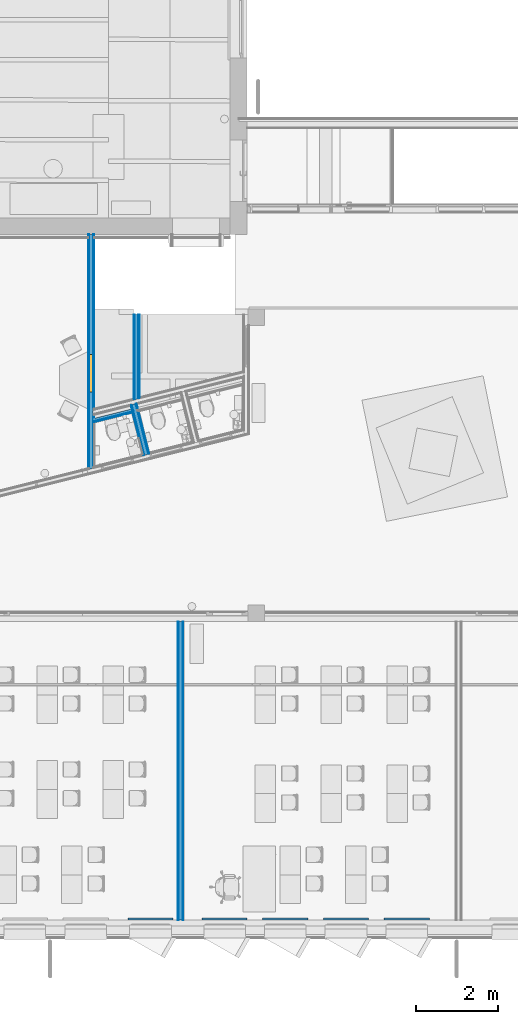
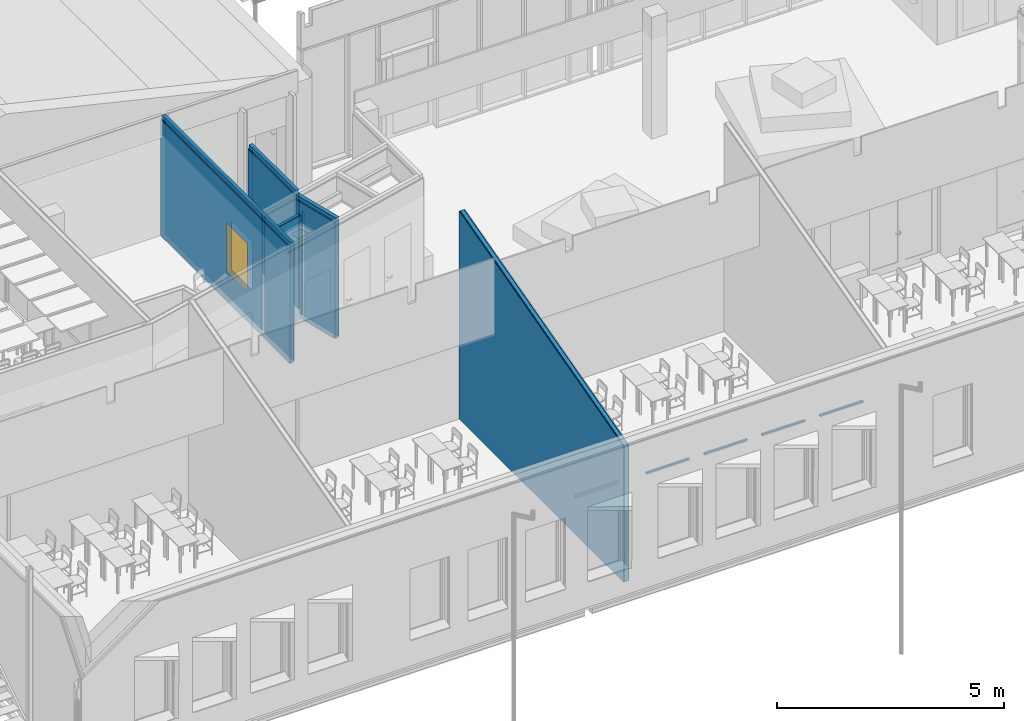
# One storey, part 55 of 153: 22 building element parts, 5 discrete accessories, 1 door, 1 opening, 5 elements without a shape of their own.
"""IFC2X3 building model written with IfcOpenShell, lengths in millimetres."""

from ifc_helpers import new_model, entity, si_unit, converted_unit, derived_unit, money_unit, direction, frame, origin_with_axes, place, context, subcontext, project, spatial, faceted_brep, material, type_object, element, fill, aggregate, save


model = new_model("IFC2X3")

# Units and contexts
model_context = context("Model", 3, precision=0.01, world=origin_with_axes(), true_north=direction((0.0, 1.0)))
body_context = subcontext(model_context, "Body", "Model", "MODEL_VIEW")
ifc_project = project(units=[si_unit("LENGTHUNIT", "METRE", prefix="MILLI"), si_unit("AREAUNIT", "SQUARE_METRE"), si_unit("VOLUMEUNIT", "CUBIC_METRE"), converted_unit("PLANEANGLEUNIT", "DEGREE", entity("IfcPlaneAngleMeasure", 0.0174532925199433), si_unit("PLANEANGLEUNIT", "RADIAN"), dimensions=[0, 0, 0, 0, 0, 0, 0]), money_unit("EUR"), converted_unit("TIMEUNIT", "Year", entity("IfcTimeMeasure", 31557600.0), si_unit("TIMEUNIT", "SECOND"), dimensions=[0, 0, 1, 0, 0, 0, 0]), si_unit("MASSUNIT", "GRAM", prefix="KILO"), si_unit("THERMODYNAMICTEMPERATUREUNIT", "DEGREE_CELSIUS"), si_unit("LUMINOUSINTENSITYUNIT", "LUMEN"), si_unit("ENERGYUNIT", "JOULE", prefix="MEGA"), derived_unit("THERMALCONDUCTANCEUNIT", [(si_unit("POWERUNIT", "WATT"), 1), (si_unit("LENGTHUNIT", "METRE"), -1), (si_unit("THERMODYNAMICTEMPERATUREUNIT", "KELVIN"), -1)]), derived_unit("SPECIFICHEATCAPACITYUNIT", [(si_unit("ENERGYUNIT", "JOULE"), 1), (si_unit("MASSUNIT", "GRAM", prefix="KILO"), -1), (si_unit("THERMODYNAMICTEMPERATUREUNIT", "KELVIN"), -1)]), derived_unit("MASSDENSITYUNIT", [(si_unit("MASSUNIT", "GRAM", prefix="KILO"), 1), (si_unit("VOLUMEUNIT", "CUBIC_METRE"), -1)])], contexts=[model_context])

# Site, building, storey
site_placement = place(None, frame((0.0, 0.0, 8650.0), z_axis=(0.0, 0.0, 1.0), x_axis=(1.0, 0.0, 0.0)))
site = spatial("IfcSite", under=ifc_project, at=site_placement, Name="43301:001:0844", CompositionType="ELEMENT")
building_placement = place(site_placement, origin_with_axes())
building = spatial("IfcBuilding", under=site, at=building_placement, Name="Kuressaare Ametikooli tuulikute mehaanikute õppekorpus", CompositionType="ELEMENT")
storey_placement = place(building_placement, frame((0.0, 0.0, 4100.0), z_axis=(0.0, 0.0, 1.0), x_axis=(1.0, 0.0, 0.0)))
storey = spatial("IfcBuildingStorey", under=building, at=storey_placement, Name="2.korrus", CompositionType="ELEMENT", Elevation=4100.0)

# Door
door_style = type_object("IfcDoorStyle", Name="Door 27", ConstructionType="NOTDEFINED", OperationType="SINGLE_SWING_RIGHT", ParameterTakesPrecedence=False, Sizeable=False)
wall_4_placement = place(storey_placement, frame((99785.61828844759, 25783.06892395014, 0.0), z_axis=(0.0, 0.0, 1.0), x_axis=(0.0, -1.0, 0.0)))
opening_placement = place(wall_4_placement, frame((3373.080116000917, 0.0, 799.9999999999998), z_axis=(0.0, 0.0, 1.0), x_axis=(1.0, 0.0, 0.0)))
door_placement = place(opening_placement, frame((454.9999999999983, 0.0, 0.0), z_axis=(0.0, 0.0, 1.0), x_axis=(-1.0, 0.0, 0.0)))
door = element("IfcDoor", 1, at=door_placement, inside=storey, type_object=door_style, Name="PU9x13v,EI30", OverallHeight=1310.0, OverallWidth=910.0, context=body_context, shape_type="Brep", body=[
    faceted_brep([(861.9999999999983, -64.99999999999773, 0.0), (861.9999999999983, -64.99999999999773, 11.99999999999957), (849.9999999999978, -64.99999999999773, 11.99999999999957), (849.9999999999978, -64.99999999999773, 0.0), (47.99999999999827, -64.99999999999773, 0.0), (47.99999999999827, -64.99999999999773, 11.99999999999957), (59.99999999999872, -64.99999999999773, 11.99999999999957), (59.99999999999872, -90.00000000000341, 11.99999999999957), (849.9999999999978, -90.00000000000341, 11.99999999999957), (849.9999999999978, -90.00000000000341, 0.0), (59.99999999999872, -90.00000000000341, 0.0), (59.99999999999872, -64.99999999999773, 0.0)], [[[0, 1, 2, 3]], [[4, 5, 1, 0]], [[1, 5, 6, 7, 8, 2]], [[3, 2, 8, 9]], [[0, 3, 9, 10, 11, 4]], [[11, 6, 5, 4]], [[10, 7, 6, 11]], [[9, 8, 7, 10]]]),
    faceted_brep([(59.99999999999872, -64.99999999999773, 0.0), (59.99999999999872, -64.99999999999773, 1250.0), (59.99999999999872, -90.00000000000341, 1250.0), (59.99999999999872, -90.00000000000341, 0.0), (47.99999999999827, -64.99999999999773, 1250.0), (47.99999999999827, -64.99999999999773, 0.0), (47.99999999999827, 0.0, 1250.0), (0.0, 0.0, 1250.0), (0.0, -90.00000000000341, 1250.0), (0.0, -90.00000000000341, 0.0), (0.0, 0.0, 0.0), (47.99999999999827, 0.0, 0.0)], [[[0, 1, 2, 3]], [[4, 1, 0, 5]], [[4, 6, 7, 8, 2, 1]], [[3, 2, 8, 9]], [[5, 0, 3, 9, 10, 11]], [[6, 4, 5, 11]], [[6, 11, 10, 7]], [[10, 9, 8, 7]]]),
    faceted_brep([(861.9999999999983, -64.99999999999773, 1250.0), (849.9999999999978, -64.99999999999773, 1250.0), (849.9999999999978, -90.00000000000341, 1250.0), (909.9999999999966, -90.00000000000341, 1250.0), (909.9999999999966, 0.0, 1250.0), (861.9999999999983, 0.0, 1250.0), (861.9999999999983, -64.99999999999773, 0.0), (849.9999999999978, -64.99999999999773, 0.0), (849.9999999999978, -90.00000000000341, 0.0), (909.9999999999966, -90.00000000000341, 0.0), (909.9999999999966, 0.0, 0.0), (861.9999999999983, 0.0, 0.0)], [[[0, 1, 2, 3, 4, 5]], [[1, 0, 6, 7]], [[1, 7, 8, 2]], [[3, 2, 8, 9]], [[4, 3, 9, 10]], [[11, 5, 4, 10]], [[0, 5, 11, 6]], [[6, 11, 10, 9, 8, 7]]]),
    faceted_brep([(47.99999999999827, 0.0, 1262.0), (47.99999999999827, 0.0, 1250.0), (0.0, 0.0, 1250.0), (0.0, 0.0, 1310.0), (909.9999999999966, 0.0, 1310.0), (909.9999999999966, 0.0, 1250.0), (861.9999999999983, 0.0, 1250.0), (861.9999999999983, 0.0, 1262.0), (47.99999999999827, -64.99999999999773, 1262.0), (47.99999999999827, -64.99999999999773, 1250.0), (59.99999999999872, -64.99999999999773, 1250.0), (59.99999999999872, -90.00000000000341, 1250.0), (0.0, -90.00000000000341, 1250.0), (0.0, -90.00000000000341, 1310.0), (909.9999999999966, -90.00000000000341, 1310.0), (909.9999999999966, -90.00000000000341, 1250.0), (861.9999999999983, -64.99999999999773, 1250.0), (849.9999999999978, -90.00000000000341, 1250.0), (849.9999999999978, -64.99999999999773, 1250.0), (861.9999999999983, -64.99999999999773, 1262.0)], [[[0, 1, 2, 3, 4, 5, 6, 7]], [[1, 0, 8, 9]], [[9, 10, 11, 12, 2, 1]], [[2, 12, 13, 3]], [[3, 13, 14, 4]], [[4, 14, 15, 5]], [[16, 6, 5, 15, 17, 18]], [[7, 6, 16, 19]], [[0, 7, 19, 8]], [[16, 18, 10, 9, 8, 19]], [[10, 18, 17, 11]], [[17, 15, 14, 13, 12, 11]]]),
    faceted_brep([(861.9999999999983, 0.0, 0.0), (861.9999999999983, -64.99999999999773, 0.0), (47.99999999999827, -64.99999999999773, 0.0), (47.99999999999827, 0.0, 0.0), (861.9999999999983, 0.0, 1262.0), (861.9999999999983, -64.99999999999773, 1262.0), (47.99999999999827, -64.99999999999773, 1262.0), (47.99999999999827, 0.0, 1262.0)], [[[0, 1, 2, 3]], [[4, 5, 1, 0]], [[1, 5, 6, 2]], [[3, 2, 6, 7]], [[0, 3, 7, 4]], [[7, 6, 5, 4]]]),
])

# Discrete accessories
ifc_material_1 = material(Name="GENEERILINE - KONSTRUKTRIOON")
discrete_accessory_type = type_object("IfcDiscreteAccessoryType", Name="GENEERILINE - KONSTRUKTRIOON 50")
for number, where, z_axis, x_axis, name in (
    (2, (100748.0685835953, 9123.838490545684, 2700.0), (0.0, 0.0, 1.0), (1.0, 0.0, 0.0), "RK"),
    (3, (102547.9522847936, 9123.838490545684, 2700.0), (0.0, 0.0, 1.0), (1.0, 0.0, 0.0), "RK"),
    (4, (104022.9522847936, 9123.838490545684, 2700.0), (0.0, 0.0, 1.0), (1.0, 0.0, 0.0), "RK"),
    (5, (105497.9522847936, 9123.838490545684, 2700.0), (0.0, 0.0, 1.0), (1.0, 0.0, 0.0), "RK"),
    (6, (106972.9522847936, 9123.838490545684, 2700.0), (0.0, 0.0, 1.0), (1.0, 0.0, 0.0), "RK"),
):
    element("IfcDiscreteAccessory", number, at=place(storey_placement, frame(where, z_axis=z_axis, x_axis=x_axis)), inside=storey, type_object=discrete_accessory_type, material=ifc_material_1, Name=name, context=body_context, shape_type="Brep", body=[
        faceted_brep([(0.0, 0.0, 49.99999999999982), (0.0, 0.0, 0.0), (1099.999999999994, 0.0, 0.0), (1099.999999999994, 0.0, 49.99999999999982), (0.0, 50.00000000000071, 49.99999999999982), (0.0, 50.00000000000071, 0.0), (1099.999999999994, 50.00000000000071, 0.0), (1099.999999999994, 50.00000000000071, 49.99999999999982)], [[[0, 1, 2, 3]], [[4, 5, 1, 0]], [[2, 1, 5, 6]], [[3, 2, 6, 7]], [[4, 0, 3, 7]], [[7, 6, 5, 4]]]),
    ])

# Wall, building element parts
wall_type_1 = type_object("IfcWallType", Name="SS-2.4 92", PredefinedType="NOTDEFINED")
wall_1_placement = place(storey_placement, frame((99925.61828844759, 21218.086665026, 0.0), z_axis=(0.0, 0.0, 1.0), x_axis=(0.9699954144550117, 0.2431232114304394, 0.0)))
wall_1 = element("IfcWall", 7, at=wall_1_placement, inside=storey, type_object=wall_type_1, Name="Sisesein")
ifc_material_2 = material(Name="Air Space - Frame")
building_element_part_1_placement = place(wall_1_placement, origin_with_axes())
building_element_part_1 = element("IfcBuildingElementPart", 8, at=building_element_part_1_placement, material=ifc_material_2, Name="Air Space - Frame", context=body_context, shape_type="Brep", body=[
    faceted_brep([(996.9999750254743, 26.00004441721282, 0.0), (996.9999750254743, 26.00004441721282, 2800.0), (0.0, 25.99999999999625, 2800.0), (0.0, 25.99999999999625, 0.0), (996.9999707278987, 92.00004441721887, 0.0), (996.9999707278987, 92.00004441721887, 2800.0), (0.0, 91.99999999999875, 2800.0), (0.0, 91.99999999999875, 0.0)], [[[0, 1, 2, 3]], [[1, 0, 4, 5]], [[1, 5, 6, 2]], [[2, 6, 7, 3]], [[4, 0, 3, 7]], [[4, 7, 6, 5]]]),
])
ifc_material_3 = material(Name="Plywood")
building_element_part_2_placement = place(wall_1_placement, origin_with_axes())
building_element_part_2 = element("IfcBuildingElementPart", 9, at=building_element_part_2_placement, material=ifc_material_3, Name="Plywood", context=body_context, shape_type="Brep", body=[
    faceted_brep([(996.9999758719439, 13.00004441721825, 0.0), (996.9999758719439, 13.00004441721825, 2800.0), (0.0, 12.99999999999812, 2800.0), (0.0, 12.99999999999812, 0.0), (996.9999750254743, 26.00004441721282, 0.0), (996.9999750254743, 26.00004441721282, 2800.0), (0.0, 25.99999999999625, 2800.0), (0.0, 25.99999999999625, 0.0)], [[[0, 1, 2, 3]], [[1, 0, 4, 5]], [[1, 5, 6, 2]], [[2, 6, 7, 3]], [[4, 0, 3, 7]], [[4, 7, 6, 5]]]),
])
ifc_material_4 = material(Name="Plaster - Gypsum")
building_element_part_3_placement = place(wall_1_placement, origin_with_axes())
building_element_part_3 = element("IfcBuildingElementPart", 10, at=building_element_part_3_placement, material=ifc_material_4, Name="Plaster - Gypsum", context=body_context, shape_type="Brep", body=[
    faceted_brep([(970.9999767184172, 5.133200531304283e-05, 0.0), (970.9999767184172, 5.133200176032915e-05, 2800.0), (0.0, 0.0, 2800.0), (0.0, 0.0, 0.0), (970.9999758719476, 13.00005133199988, 0.0), (970.9999758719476, 13.00005133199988, 2800.0), (0.0, 12.99999999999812, 2800.0), (0.0, 12.99999999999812, 0.0)], [[[0, 1, 2, 3]], [[1, 0, 4, 5]], [[1, 5, 6, 2]], [[2, 6, 7, 3]], [[4, 0, 3, 7]], [[4, 7, 6, 5]]]),
])
aggregate(wall_1, [building_element_part_1, building_element_part_2, building_element_part_3])

wall_type_2 = type_object("IfcWallType", Name="SS-2.2 147", PredefinedType="NOTDEFINED")
wall_2_placement = place(storey_placement, frame((100826.1528089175, 21619.05870574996, 0.0), z_axis=(0.0, 0.0, 1.0), x_axis=(0.2431232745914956, -0.9699953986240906, 0.0)))
wall_2 = element("IfcWall", 11, at=wall_2_placement, inside=storey, type_object=wall_type_2, Name="Sisesein")
ifc_material_5 = material(Name="Kipsplaat")
building_element_part_4_placement = place(wall_2_placement, origin_with_axes())
building_element_part_4 = element("IfcBuildingElementPart", 12, at=building_element_part_4_placement, material=ifc_material_5, Name="Kipsplaat", context=body_context, shape_type="Brep", body=[
    faceted_brep([(0.0002997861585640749, 147.0000000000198, 3129.999999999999), (1223.000132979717, 147.0000000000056, 3129.999999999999), (1223.000132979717, 147.0000000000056, 0.0), (157.0001466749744, 147.0000000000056, 0.0), (157.000146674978, 147.0000000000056, 2800.0), (78.0001466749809, 147.0000000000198, 2800.0), (78.0001466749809, 147.000000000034, 0.0), (0.0002997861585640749, 147.0000000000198, 0.0), (1223.000132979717, 134.0000000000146, 3129.999999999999), (0.0003015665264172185, 134.0000000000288, 3129.999999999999), (1223.000132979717, 134.0000000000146, 0.0), (157.0001510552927, 134.0000000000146, 0.0), (157.0001510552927, 134.0000000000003, 2800.0), (78.00015105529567, 134.0000000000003, 2800.0), (78.00015105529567, 134.0000000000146, 0.0), (0.0003015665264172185, 134.0000000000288, 0.0)], [[[0, 1, 2, 3, 4, 5, 6, 7]], [[8, 1, 0, 9]], [[1, 8, 10, 2]], [[10, 11, 3, 2]], [[12, 4, 3, 11]], [[4, 12, 13, 5]], [[5, 13, 14, 6]], [[7, 6, 14, 15]], [[9, 0, 7, 15]], [[8, 9, 15, 14, 13, 12, 11, 10]]]),
])
building_element_part_5_placement = place(wall_2_placement, origin_with_axes())
building_element_part_5 = element("IfcBuildingElementPart", 13, at=building_element_part_5_placement, material=ifc_material_5, Name="Kipsplaat", context=body_context, shape_type="Brep", body=[
    faceted_brep([(-12.99969843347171, 134.0000000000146, 3145.0), (1236.000132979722, 134.0000000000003, 3145.0), (1236.000132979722, 134.0000000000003, 0.0), (157.0001510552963, 134.0000000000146, 0.0), (157.0001510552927, 134.0000000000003, 2800.0), (78.00015105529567, 134.0000000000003, 2800.0), (78.00015105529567, 134.0000000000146, 0.0), (-12.99969843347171, 134.0000000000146, 0.0), (1236.000132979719, 121.0000000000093, 3145.0), (-12.99969665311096, 121.0000000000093, 3145.0), (1236.000132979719, 121.0000000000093, 0.0), (157.0001554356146, 121.0000000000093, 0.0), (157.0001554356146, 121.0000000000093, 2800.0), (78.000155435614, 121.0000000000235, 2800.0), (78.000155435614, 121.0000000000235, 0.0), (-12.99969665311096, 121.0000000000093, 0.0)], [[[0, 1, 2, 3, 4, 5, 6, 7]], [[8, 1, 0, 9]], [[1, 8, 10, 2]], [[10, 11, 3, 2]], [[12, 4, 3, 11]], [[4, 12, 13, 5]], [[5, 13, 14, 6]], [[7, 6, 14, 15]], [[9, 0, 7, 15]], [[8, 9, 15, 14, 13, 12, 11, 10]]]),
])
ifc_material_6 = material(Name="Soojustus - Mineraalvill pehme")
building_element_part_6_placement = place(wall_2_placement, origin_with_axes())
building_element_part_6 = element("IfcBuildingElementPart", 14, at=building_element_part_6_placement, material=ifc_material_6, Name="Soojustus - Mineraalvill pehme", context=body_context, shape_type="Brep", body=[
    faceted_brep([(-25.99969665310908, 121.0000000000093, 3240.0), (1249.000132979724, 121.0000000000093, 3240.0), (1249.000132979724, 121.0000000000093, 0.0), (-25.99969665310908, 121.0000000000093, 0.0), (1249.000132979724, 26.00000000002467, 3240.0), (-25.99968364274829, 25.99999999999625, 3240.0), (1249.000132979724, 26.00000000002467, 0.0), (-25.99968364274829, 25.99999999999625, 0.0)], [[[0, 1, 2, 3]], [[4, 1, 0, 5]], [[1, 4, 6, 2]], [[3, 2, 6, 7]], [[5, 0, 3, 7]], [[4, 5, 7, 6]]]),
])
building_element_part_7_placement = place(wall_2_placement, origin_with_axes())
building_element_part_7 = element("IfcBuildingElementPart", 15, at=building_element_part_7_placement, material=ifc_material_5, Name="Kipsplaat", context=body_context, shape_type="Brep", body=[
    faceted_brep([(-12.99968364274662, 26.00000000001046, 3145.0), (1236.000132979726, 26.00000000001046, 3145.0), (1236.000132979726, 26.00000000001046, 0.0), (157.0001534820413, 26.00000000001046, 0.0), (157.0001534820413, 26.00000000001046, 2800.0), (78.00015348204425, 26.00000000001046, 2800.0), (78.00015348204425, 26.00000000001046, 0.0), (-12.99968364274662, 26.00000000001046, 0.0), (1236.000132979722, 13.00000000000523, 3145.0), (-12.99968186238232, 13.00000000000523, 3145.0), (1236.000132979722, 13.00000000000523, 0.0), (157.0001532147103, 13.00000000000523, 0.0), (157.0001532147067, 13.00000000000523, 2800.0), (78.00015321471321, 13.00000000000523, 2800.0), (78.00015321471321, 13.00000000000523, 0.0), (-12.99968186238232, 13.00000000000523, 0.0)], [[[0, 1, 2, 3, 4, 5, 6, 7]], [[8, 1, 0, 9]], [[1, 8, 10, 2]], [[10, 11, 3, 2]], [[12, 4, 3, 11]], [[5, 4, 12, 13]], [[5, 13, 14, 6]], [[7, 6, 14, 15]], [[9, 0, 7, 15]], [[8, 9, 15, 14, 13, 12, 11, 10]]]),
])
building_element_part_8_placement = place(wall_2_placement, origin_with_axes())
building_element_part_8 = element("IfcBuildingElementPart", 16, at=building_element_part_8_placement, material=ifc_material_5, Name="Kipsplaat", context=body_context, shape_type="Brep", body=[
    faceted_brep([(0.0003181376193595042, 13.00000000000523, 3129.999999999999), (1223.000132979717, 13.00000000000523, 3129.999999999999), (1223.000132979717, 13.00000000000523, 0.0), (157.0001532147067, 13.00000000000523, 0.0), (157.0001532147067, 13.00000000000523, 2800.0), (78.00015321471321, 13.00000000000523, 2800.0), (78.00015321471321, 13.00000000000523, 0.0), (0.0003181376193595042, 13.00000000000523, 0.0), (1223.000132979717, 0.0, 3129.999999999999), (0.0003199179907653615, 0.0, 3129.999999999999), (1223.000132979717, 0.0, 0.0), (157.0001529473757, 0.0, 0.0), (157.0001529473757, 0.0, 2800.0), (78.00015294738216, 0.0, 2800.0), (78.00015294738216, 0.0, 0.0), (0.0003199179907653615, 0.0, 0.0)], [[[0, 1, 2, 3, 4, 5, 6, 7]], [[8, 1, 0, 9]], [[1, 8, 10, 2]], [[10, 11, 3, 2]], [[12, 4, 3, 11]], [[5, 4, 12, 13]], [[5, 13, 14, 6]], [[7, 6, 14, 15]], [[9, 0, 7, 15]], [[8, 9, 15, 14, 13, 12, 11, 10]]]),
])
aggregate(wall_2, [building_element_part_4, building_element_part_5, building_element_part_6, building_element_part_7, building_element_part_8])

wall_3_placement = place(storey_placement, frame((102108.0683708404, 9123.83842601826, 0.0), z_axis=(0.0, 0.0, 1.0), x_axis=(-1.33078091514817e-07, 0.9999999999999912, 0.0)))
wall_3 = element("IfcWall", 17, at=wall_3_placement, inside=storey, type_object=wall_type_2, Name="Sisesein")
building_element_part_9_placement = place(wall_3_placement, origin_with_axes())
building_element_part_9 = element("IfcBuildingElementPart", 18, at=building_element_part_9_placement, material=ifc_material_5, Name="Kipsplaat", context=body_context, shape_type="Brep", body=[
    faceted_brep([(7250.205461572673, 146.9999996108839, 5607.485657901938), (7250.205454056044, 133.9999999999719, 5607.485655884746), (7250.205423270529, 133.9999999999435, 3589.999999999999), (7250.2054231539, 146.9999999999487, 3589.999999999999), (0.001079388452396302, 134.000000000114, 3664.799248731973), (0.00108044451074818, 146.9999906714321, 3664.79924901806), (8.23598913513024e-05, 134.0000000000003, 0.0), (7250.210284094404, 134.0000000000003, 0.0), (7250.210284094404, 134.0000000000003, 3259.999999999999), (7250.210284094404, 147.0000000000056, 3259.999999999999), (7250.210284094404, 147.0000000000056, 0.0), (8.408990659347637e-05, 147.0000000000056, 0.0)], [[[0, 1, 2, 3]], [[4, 1, 0, 5]], [[1, 4, 6, 7, 8, 2]], [[2, 8, 9, 3]], [[5, 0, 3, 9, 10, 11]], [[4, 5, 11, 6]], [[7, 6, 11, 10]], [[8, 7, 10, 9]]]),
])
building_element_part_10_placement = place(wall_3_placement, origin_with_axes())
building_element_part_10 = element("IfcBuildingElementPart", 19, at=building_element_part_10_placement, material=ifc_material_5, Name="Kipsplaat", context=body_context, shape_type="Brep", body=[
    faceted_brep([(7250.205454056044, 133.9999999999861, 5607.485655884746), (7250.205446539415, 120.9999999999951, 5607.485653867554), (7250.205423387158, 120.9999999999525, 3589.999999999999), (7250.205423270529, 133.9999999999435, 3589.999999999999), (0.001078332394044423, 121.0000000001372, 3664.799248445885), (0.001079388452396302, 134.000000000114, 3664.799248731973), (8.062987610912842e-05, 120.9999999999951, 0.0), (7250.210284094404, 121.0000000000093, 0.0), (7250.210284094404, 121.0000000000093, 3259.999999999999), (7250.210284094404, 134.0000000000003, 3259.999999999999), (7250.210284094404, 134.0000000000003, 0.0), (8.23598913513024e-05, 134.0000000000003, 0.0)], [[[0, 1, 2, 3]], [[4, 1, 0, 5]], [[1, 4, 6, 7, 8, 2]], [[2, 8, 9, 3]], [[5, 0, 3, 9, 10, 11]], [[4, 5, 11, 6]], [[7, 6, 11, 10]], [[8, 7, 10, 9]]]),
])
building_element_part_11_placement = place(wall_3_placement, origin_with_axes())
building_element_part_11 = element("IfcBuildingElementPart", 20, at=building_element_part_11_placement, material=ifc_material_6, Name="Soojustus - Mineraalvill pehme", context=body_context, shape_type="Brep", body=[
    faceted_brep([(7250.205446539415, 121.0000000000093, 5607.485653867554), (7250.205391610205, 26.00000000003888, 5607.485639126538), (7250.20542423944, 25.99999999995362, 3589.999999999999), (7250.205423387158, 120.9999999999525, 3589.999999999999), (0.001070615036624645, 26.00000000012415, 3664.799246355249), (0.001078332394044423, 121.000000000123, 3664.799248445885), (6.79874574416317e-05, 25.99999999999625, 0.0), (7250.210284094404, 26.00000000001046, 0.0), (7250.210284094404, 26.00000000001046, 3259.999999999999), (7250.210284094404, 121.0000000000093, 3259.999999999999), (7250.210284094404, 121.0000000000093, 0.0), (8.062987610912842e-05, 120.9999999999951, 0.0)], [[[0, 1, 2, 3]], [[4, 1, 0, 5]], [[1, 4, 6, 7, 8, 2]], [[2, 8, 9, 3]], [[5, 0, 3, 9, 10, 11]], [[4, 5, 11, 6]], [[7, 6, 11, 10]], [[8, 7, 10, 9]]]),
])
building_element_part_12_placement = place(wall_3_placement, origin_with_axes())
building_element_part_12 = element("IfcBuildingElementPart", 21, at=building_element_part_12_placement, material=ifc_material_5, Name="Kipsplaat", context=body_context, shape_type="Brep", body=[
    faceted_brep([(7250.205391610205, 26.00000000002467, 5607.485639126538), (7250.205384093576, 13.00000000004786, 5607.485637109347), (7250.205424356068, 12.99999999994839, 3589.999999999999), (7250.20542423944, 25.99999999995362, 3589.999999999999), (0.00106955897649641, 13.00000000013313, 3664.799246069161), (0.001070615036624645, 26.00000000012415, 3664.799246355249), (6.625744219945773e-05, 13.00000000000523, 0.0), (7250.210284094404, 13.00000000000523, 0.0), (7250.210284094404, 13.00000000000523, 3259.999999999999), (7250.210284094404, 26.00000000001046, 3259.999999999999), (7250.210284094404, 26.00000000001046, 0.0), (6.79874574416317e-05, 25.99999999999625, 0.0)], [[[0, 1, 2, 3]], [[4, 1, 0, 5]], [[1, 4, 6, 7, 8, 2]], [[2, 8, 9, 3]], [[5, 0, 3, 9, 10, 11]], [[4, 5, 11, 6]], [[7, 6, 11, 10]], [[8, 7, 10, 9]]]),
])
aggregate(wall_3, [building_element_part_9, building_element_part_10, building_element_part_11, building_element_part_12])

# Wall, opening
wall_type_3 = type_object("IfcWallType", Name="SS-2.1 147", PredefinedType="NOTDEFINED")
wall_4 = element("IfcWall", 22, at=wall_4_placement, inside=storey, type_object=wall_type_3, Name="Sisesein")
opening = element("IfcOpeningElement", 23, at=opening_placement, cuts=wall_4, Name="PU9x13v,EI30", context=body_context, shape_type="Brep", body=[
    faceted_brep([(454.9999999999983, 148.0000000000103, 1310.0), (454.9999999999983, 148.0000000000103, 0.0), (-454.9999999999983, 148.0000000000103, 0.0), (-454.9999999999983, 148.0000000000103, 1310.0), (454.9999999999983, -1.000000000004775, 1310.0), (454.9999999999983, -1.000000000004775, 0.0), (-454.9999999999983, -1.000000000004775, 0.0), (-454.9999999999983, -1.000000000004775, 1310.0)], [[[0, 1, 2, 3]], [[4, 5, 1, 0]], [[5, 6, 2, 1]], [[6, 7, 3, 2]], [[7, 4, 0, 3]], [[6, 5, 4, 7]]]),
])

fill(opening, door)

# Building element part
building_element_part_13_placement = place(wall_4_placement, origin_with_axes())
building_element_part_13 = element("IfcBuildingElementPart", 24, at=building_element_part_13_placement, material=ifc_material_5, Name="Kipsplaat", context=body_context, shape_type="Brep", body=[
    faceted_brep([(4377.825756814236, 134.0000000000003, 3129.999999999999), (4374.567386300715, 147.0000000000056, 3129.999999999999), (4374.567386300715, 147.0000000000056, 0.0), (4377.825756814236, 134.0000000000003, 0.0), (5648.799912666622, 147.0000000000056, 3129.999999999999), (5652.058281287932, 134.0000000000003, 3129.999999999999), (5648.799912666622, 147.0000000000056, 0.0), (5652.058281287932, 134.0000000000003, 0.0)], [[[0, 1, 2, 3]], [[4, 1, 0, 5]], [[1, 4, 6, 2]], [[2, 6, 7, 3]], [[5, 0, 3, 7]], [[4, 5, 7, 6]]]),
    faceted_brep([(0.0, 134.0000000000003, 3129.999999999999), (0.0, 134.0000000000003, 0.0), (4253.082892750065, 134.0000000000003, 0.0), (4253.082892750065, 134.0000000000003, 3129.999999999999), (3828.080116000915, 134.0000000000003, 799.9999999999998), (2918.080116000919, 134.0000000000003, 799.9999999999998), (2918.080116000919, 134.0000000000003, 2110.0), (3828.080116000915, 134.0000000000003, 2110.0), (0.0, 147.0000000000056, 3129.999999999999), (0.0, 147.0000000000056, 0.0), (4249.824522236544, 147.0000000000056, 0.0), (4249.824522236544, 147.0000000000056, 3129.999999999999), (3828.080116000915, 147.0000000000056, 799.9999999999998), (2918.080116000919, 147.0000000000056, 799.9999999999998), (2918.080116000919, 147.0000000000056, 2110.0), (3828.080116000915, 147.0000000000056, 2110.0)], [[[0, 1, 2, 3], [4, 5, 6, 7]], [[8, 9, 1, 0]], [[2, 1, 9, 10]], [[3, 2, 10, 11]], [[8, 0, 3, 11]], [[12, 13, 5, 4]], [[13, 14, 6, 5]], [[14, 15, 7, 6]], [[15, 12, 4, 7]], [[11, 10, 9, 8], [12, 15, 14, 13]]]),
])

building_element_part_14_placement = place(wall_4_placement, origin_with_axes())
building_element_part_14 = element("IfcBuildingElementPart", 25, at=building_element_part_14_placement, material=ifc_material_5, Name="Kipsplaat", context=body_context, shape_type="Brep", body=[
    faceted_brep([(4367.682001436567, 120.9999999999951, 3145.0), (4364.423630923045, 134.0000000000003, 3145.0), (4364.423630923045, 134.0000000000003, 0.0), (4367.682001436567, 120.9999999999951, 0.0), (5665.460406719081, 134.0000000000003, 3145.0), (5668.718775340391, 120.9999999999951, 3145.0), (5665.460406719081, 134.0000000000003, 0.0), (5668.718775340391, 120.9999999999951, 0.0)], [[[0, 1, 2, 3]], [[4, 1, 0, 5]], [[1, 4, 6, 2]], [[2, 6, 7, 3]], [[5, 0, 3, 7]], [[4, 5, 7, 6]]]),
    faceted_brep([(0.0, 120.9999999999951, 3145.0), (0.0, 120.9999999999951, 0.0), (4269.743389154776, 120.9999999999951, 0.0), (4269.743389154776, 120.9999999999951, 3145.0), (3828.080116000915, 120.9999999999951, 799.9999999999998), (2918.080116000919, 120.9999999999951, 799.9999999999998), (2918.080116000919, 120.9999999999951, 2110.0), (3828.080116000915, 120.9999999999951, 2110.0), (0.0, 134.0000000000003, 3145.0), (0.0, 134.0000000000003, 0.0), (4266.485018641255, 134.0000000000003, 0.0), (4266.485018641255, 134.0000000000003, 3145.0), (3828.080116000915, 134.0000000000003, 799.9999999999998), (2918.080116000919, 134.0000000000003, 799.9999999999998), (2918.080116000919, 134.0000000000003, 2110.0), (3828.080116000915, 134.0000000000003, 2110.0)], [[[0, 1, 2, 3], [4, 5, 6, 7]], [[8, 9, 1, 0]], [[2, 1, 9, 10]], [[3, 2, 10, 11]], [[8, 0, 3, 11]], [[12, 13, 5, 4]], [[13, 14, 6, 5]], [[14, 15, 7, 6]], [[15, 12, 4, 7]], [[11, 10, 9, 8], [12, 15, 14, 13]]]),
])

building_element_part_15_placement = place(wall_4_placement, origin_with_axes())
building_element_part_15 = element("IfcBuildingElementPart", 26, at=building_element_part_15_placement, material=ifc_material_6, Name="Soojustus - Mineraalvill pehme", context=body_context, shape_type="Brep", body=[
    faceted_brep([(0.0, 25.99999999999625, 3240.0), (0.0, 25.99999999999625, 0.0), (5705.932056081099, 25.99999999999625, 0.0), (5705.932056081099, 25.99999999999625, 3240.0), (3828.080116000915, 25.99999999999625, 799.9999999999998), (2918.080116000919, 25.99999999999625, 799.9999999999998), (2918.080116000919, 25.99999999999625, 2110.0), (3828.080116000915, 25.99999999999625, 2110.0), (0.0, 120.9999999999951, 3240.0), (0.0, 120.9999999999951, 0.0), (5682.120900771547, 120.9999999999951, 0.0), (5682.120900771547, 120.9999999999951, 3240.0), (3828.080116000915, 120.9999999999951, 799.9999999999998), (2918.080116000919, 120.9999999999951, 799.9999999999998), (2918.080116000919, 120.9999999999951, 2110.0), (3828.080116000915, 120.9999999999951, 2110.0)], [[[0, 1, 2, 3], [4, 5, 6, 7]], [[8, 9, 1, 0]], [[10, 2, 1, 9]], [[3, 2, 10, 11]], [[8, 0, 3, 11]], [[12, 13, 5, 4]], [[13, 14, 6, 5]], [[14, 15, 7, 6]], [[15, 12, 4, 7]], [[11, 10, 9, 8], [12, 15, 14, 13]]]),
])

building_element_part_16_placement = place(wall_4_placement, origin_with_axes())
building_element_part_16 = element("IfcBuildingElementPart", 27, at=building_element_part_16_placement, material=ifc_material_5, Name="Kipsplaat", context=body_context, shape_type="Brep", body=[
    faceted_brep([(0.0, 13.00000000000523, 3145.0), (0.0, 13.00000000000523, 0.0), (5695.78829927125, 13.00000000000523, 0.0), (5695.78829927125, 13.00000000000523, 3145.0), (3828.080116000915, 13.00000000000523, 799.9999999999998), (2918.080116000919, 13.00000000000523, 799.9999999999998), (2918.080116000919, 13.00000000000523, 2110.0), (3828.080116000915, 13.00000000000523, 2110.0), (0.0, 25.99999999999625, 3145.0), (0.0, 25.99999999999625, 0.0), (5692.529930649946, 25.99999999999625, 0.0), (5692.529930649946, 25.99999999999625, 3145.0), (3828.080116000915, 25.99999999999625, 799.9999999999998), (2918.080116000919, 25.99999999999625, 799.9999999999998), (2918.080116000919, 25.99999999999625, 2110.0), (3828.080116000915, 25.99999999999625, 2110.0)], [[[0, 1, 2, 3], [4, 5, 6, 7]], [[8, 9, 1, 0]], [[10, 2, 1, 9]], [[3, 2, 10, 11]], [[8, 0, 3, 11]], [[12, 13, 5, 4]], [[13, 14, 6, 5]], [[14, 15, 7, 6]], [[15, 12, 4, 7]], [[11, 10, 9, 8], [12, 15, 14, 13]]]),
])

building_element_part_17_placement = place(wall_4_placement, origin_with_axes())
building_element_part_17 = element("IfcBuildingElementPart", 28, at=building_element_part_17_placement, material=ifc_material_5, Name="Kipsplaat", context=body_context, shape_type="Brep", body=[
    faceted_brep([(0.0, 0.0, 3129.999999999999), (0.0, 0.0, 0.0), (5685.644542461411, 0.0, 0.0), (5685.644542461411, 0.0, 3129.999999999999), (3828.080116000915, 0.0, 799.9999999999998), (2918.080116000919, 0.0, 799.9999999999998), (2918.080116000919, 0.0, 2110.0), (3828.080116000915, 0.0, 2110.0), (0.0, 13.00000000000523, 3129.999999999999), (0.0, 13.00000000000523, 0.0), (5682.386173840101, 13.00000000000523, 0.0), (5682.386173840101, 13.00000000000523, 3129.999999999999), (3828.080116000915, 13.00000000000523, 799.9999999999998), (2918.080116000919, 13.00000000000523, 799.9999999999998), (2918.080116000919, 13.00000000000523, 2110.0), (3828.080116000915, 13.00000000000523, 2110.0)], [[[0, 1, 2, 3], [4, 5, 6, 7]], [[8, 9, 1, 0]], [[10, 2, 1, 9]], [[3, 2, 10, 11]], [[8, 0, 3, 11]], [[12, 13, 5, 4]], [[13, 14, 6, 5]], [[14, 15, 7, 6]], [[15, 12, 4, 7]], [[11, 10, 9, 8], [12, 15, 14, 13]]]),
])

aggregate(wall_4, [building_element_part_13, building_element_part_14, building_element_part_15, building_element_part_16, building_element_part_17])

# Wall, building element parts
wall_5_placement = place(storey_placement, frame((100885.6182884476, 23974.06964326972, 0.0), z_axis=(0.0, 0.0, 1.0), x_axis=(0.0, -1.0, 0.0)))
wall_5 = element("IfcWall", 29, at=wall_5_placement, inside=storey, type_object=wall_type_3, Name="Sisesein")
building_element_part_18_placement = place(wall_5_placement, origin_with_axes())
building_element_part_18 = element("IfcBuildingElementPart", 30, at=building_element_part_18_placement, material=ifc_material_5, Name="Kipsplaat", context=body_context, shape_type="Brep", body=[
    faceted_brep([(140.0000000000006, 134.0000000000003, 3129.999999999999), (140.0000000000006, 147.0000000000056, 3129.999999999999), (140.0000000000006, 147.0000000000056, 0.0), (140.0000000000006, 134.0000000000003, 0.0), (2151.714841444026, 147.0000000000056, 3129.999999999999), (2154.973211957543, 134.0000000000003, 3129.999999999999), (2151.714841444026, 147.0000000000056, 0.0), (2154.973211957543, 134.0000000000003, 0.0)], [[[0, 1, 2, 3]], [[4, 1, 0, 5]], [[1, 4, 6, 2]], [[6, 7, 3, 2]], [[5, 0, 3, 7]], [[4, 5, 7, 6]]]),
])
building_element_part_19_placement = place(wall_5_placement, origin_with_axes())
building_element_part_19 = element("IfcBuildingElementPart", 31, at=building_element_part_19_placement, material=ifc_material_5, Name="Kipsplaat", context=body_context, shape_type="Brep", body=[
    faceted_brep([(140.0000000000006, 120.9999999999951, 3145.0), (140.0000000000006, 134.0000000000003, 3145.0), (140.0000000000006, 134.0000000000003, 0.0), (140.0000000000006, 120.9999999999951, 0.0), (2168.375337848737, 134.0000000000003, 3145.0), (2171.633708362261, 120.9999999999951, 3145.0), (2168.375337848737, 134.0000000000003, 0.0), (2171.633708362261, 120.9999999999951, 0.0)], [[[0, 1, 2, 3]], [[4, 1, 0, 5]], [[1, 4, 6, 2]], [[6, 7, 3, 2]], [[5, 0, 3, 7]], [[4, 5, 7, 6]]]),
])
building_element_part_20_placement = place(wall_5_placement, origin_with_axes())
building_element_part_20 = element("IfcBuildingElementPart", 32, at=building_element_part_20_placement, material=ifc_material_6, Name="Soojustus - Mineraalvill pehme", context=body_context, shape_type="Brep", body=[
    faceted_brep([(140.0000000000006, 25.99999999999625, 3240.0), (140.0000000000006, 120.9999999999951, 3240.0), (140.0000000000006, 120.9999999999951, 0.0), (140.0000000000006, 25.99999999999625, 0.0), (2185.035834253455, 120.9999999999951, 3240.0), (2208.847003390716, 25.99999999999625, 3240.0), (2185.035834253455, 120.9999999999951, 0.0), (2208.847003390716, 25.99999999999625, 0.0)], [[[0, 1, 2, 3]], [[4, 1, 0, 5]], [[1, 4, 6, 2]], [[6, 7, 3, 2]], [[5, 0, 3, 7]], [[4, 5, 7, 6]]]),
])
building_element_part_21_placement = place(wall_5_placement, origin_with_axes())
building_element_part_21 = element("IfcBuildingElementPart", 33, at=building_element_part_21_placement, material=ifc_material_5, Name="Kipsplaat", context=body_context, shape_type="Brep", body=[
    faceted_brep([(140.0000000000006, 13.00000000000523, 3145.0), (140.0000000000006, 25.99999999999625, 3145.0), (140.0000000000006, 25.99999999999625, 0.0), (140.0000000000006, 13.00000000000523, 0.0), (2195.444877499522, 25.99999999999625, 3145.0), (2198.703248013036, 13.00000000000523, 3145.0), (2195.444877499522, 25.99999999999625, 0.0), (2198.703248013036, 13.00000000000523, 0.0)], [[[0, 1, 2, 3]], [[4, 1, 0, 5]], [[1, 4, 6, 2]], [[6, 7, 3, 2]], [[5, 0, 3, 7]], [[4, 5, 7, 6]]]),
])
building_element_part_22_placement = place(wall_5_placement, origin_with_axes())
building_element_part_22 = element("IfcBuildingElementPart", 34, at=building_element_part_22_placement, material=ifc_material_5, Name="Kipsplaat", context=body_context, shape_type="Brep", body=[
    faceted_brep([(140.0000000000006, 0.0, 3129.999999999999), (140.0000000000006, 13.00000000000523, 3129.999999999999), (140.0000000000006, 13.00000000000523, 0.0), (140.0000000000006, 0.0, 0.0), (2185.301122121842, 13.00000000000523, 3129.999999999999), (2188.559492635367, 0.0, 3129.999999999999), (2185.301122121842, 13.00000000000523, 0.0), (2188.559492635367, 0.0, 0.0)], [[[0, 1, 2, 3]], [[4, 1, 0, 5]], [[1, 4, 6, 2]], [[6, 7, 3, 2]], [[5, 0, 3, 7]], [[4, 5, 7, 6]]]),
])
aggregate(wall_5, [building_element_part_18, building_element_part_19, building_element_part_20, building_element_part_21, building_element_part_22])

save(model, "model.ifc")
